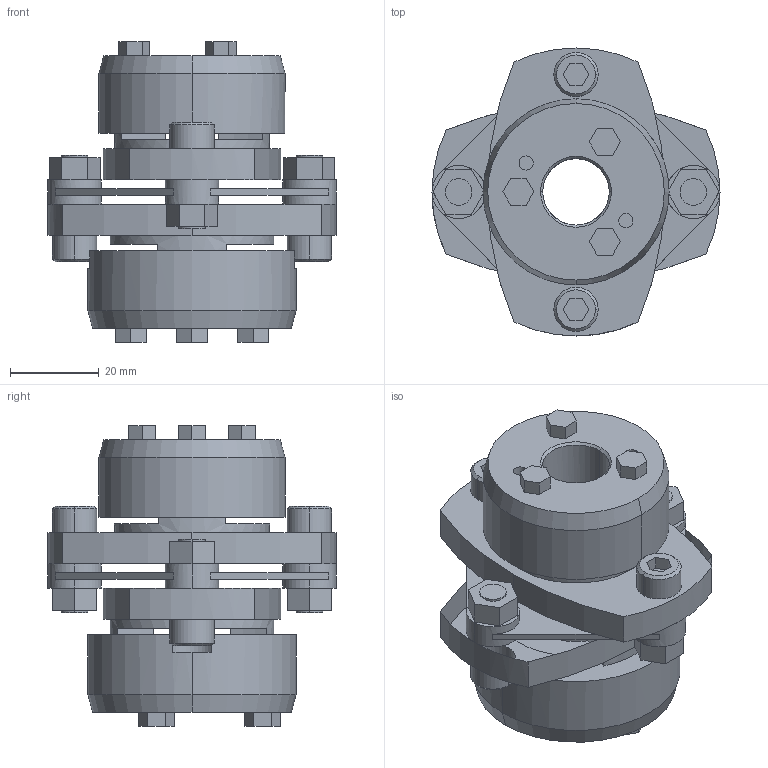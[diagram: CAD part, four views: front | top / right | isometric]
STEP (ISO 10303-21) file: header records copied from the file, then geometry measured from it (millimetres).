
FILE_DESCRIPTION((''),'2;1');
FILE_NAME('LCS-65T7-14×20.stp','2015-10-28T08:48:41',(''),(''),'AutoCAD STEP 2000i','AutoCAD 2000i',', , ');
FILE_SCHEMA(('CONFIG_CONTROL_DESIGN'));
Length unit declared in the file: millimetre
Products named in the file (9): LCS-65T7-14×19; 忣兜1; LC65T7-T019; LC65T7-T017; LC65T7-T015; LC65T7-T014-1; LC65T7-T014; LC65T7-T015-1; LCS65-ITA
Assembly tree (9 placements, depth 2):
  LCS-65T7-14×19
    忣兜1
    LC65T7-T019
    LC65T7-T017
    LC65T7-T015  x2
    LC65T7-T014-1
    LC65T7-T014
    LC65T7-T015-1
    LCS65-ITA
Bounding box: 65 x 65 x 67.9 mm (x, y, z)
Volume: 85551 mm3; surface area: 29107.2 mm2
Topology: 1 solids, 1 shells, 224 faces, 589 edges, 401 vertices
Faces by surface type: plane 134, cylinder 70, cone 20
Entity records: 7161 total; most frequent: DIRECTION 1262, CARTESIAN_POINT 1210, ORIENTED_EDGE 1150, EDGE_CURVE 575, AXIS2_PLACEMENT_3D 439, VECTOR 384, LINE 384, VERTEX_POINT 375
